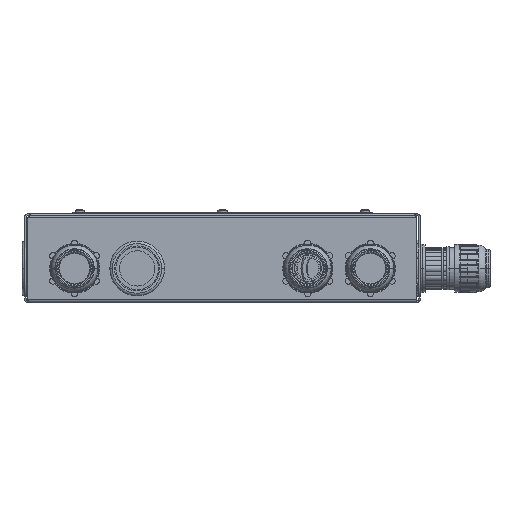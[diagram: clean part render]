
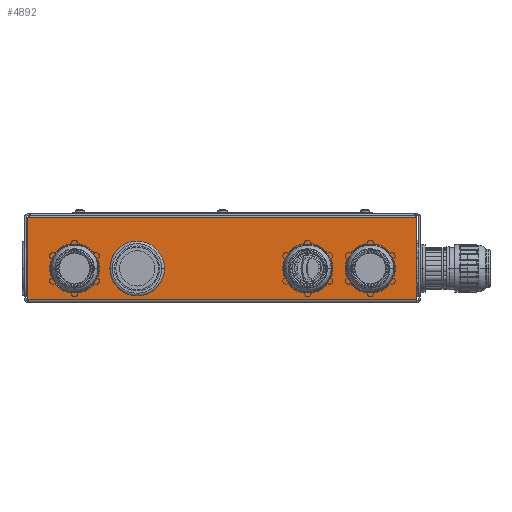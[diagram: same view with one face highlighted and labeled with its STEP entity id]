
A CAD part, front view. The second image highlights one B-rep face of the part: STEP entity #4892.
In plain terms, the highlighted planar face has unit normal (0, -1, 0) as drawn and (1, 0, 0) by its records, which use the part's own axes.
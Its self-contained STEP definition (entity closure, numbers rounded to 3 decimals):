
#110=DIRECTION('',(0.,-1.,0.));
#111=VECTOR('',#110,342.);
#112=CARTESIAN_POINT('',(200.5,171.,-1.5));
#113=LINE('',#112,#111);
#1016=DIRECTION('',(0.,0.,-1.));
#1017=VECTOR('',#1016,72.);
#1018=CARTESIAN_POINT('',(200.5,-171.,-1.5));
#1019=LINE('',#1018,#1017);
#1020=DIRECTION('',(0.,0.,1.));
#1021=VECTOR('',#1020,72.);
#1022=CARTESIAN_POINT('',(200.5,171.,-73.5));
#1023=LINE('',#1022,#1021);
#1024=CARTESIAN_POINT('',(200.5,-75.,-28.5));
#1025=DIRECTION('',(1.,0.,0.));
#1026=DIRECTION('',(0.,1.,0.));
#1027=AXIS2_PLACEMENT_3D('',#1024,#1025,#1026);
#1029=CARTESIAN_POINT('',(200.5,-75.,-28.5));
#1030=DIRECTION('',(1.,0.,0.));
#1031=DIRECTION('',(0.,-1.,0.));
#1032=AXIS2_PLACEMENT_3D('',#1029,#1030,#1031);
#1034=CARTESIAN_POINT('',(200.5,-130.,-28.5));
#1035=DIRECTION('',(1.,0.,0.));
#1036=DIRECTION('',(0.,1.,0.));
#1037=AXIS2_PLACEMENT_3D('',#1034,#1035,#1036);
#1039=CARTESIAN_POINT('',(200.5,-130.,-28.5));
#1040=DIRECTION('',(1.,0.,0.));
#1041=DIRECTION('',(0.,-1.,0.));
#1042=AXIS2_PLACEMENT_3D('',#1039,#1040,#1041);
#1044=CARTESIAN_POINT('',(200.5,75.,-28.5));
#1045=DIRECTION('',(1.,0.,0.));
#1046=DIRECTION('',(0.,1.,0.));
#1047=AXIS2_PLACEMENT_3D('',#1044,#1045,#1046);
#1049=CARTESIAN_POINT('',(200.5,75.,-28.5));
#1050=DIRECTION('',(1.,0.,0.));
#1051=DIRECTION('',(0.,-1.,0.));
#1052=AXIS2_PLACEMENT_3D('',#1049,#1050,#1051);
#1054=CARTESIAN_POINT('',(200.5,130.,-28.5));
#1055=DIRECTION('',(1.,0.,0.));
#1056=DIRECTION('',(0.,1.,0.));
#1057=AXIS2_PLACEMENT_3D('',#1054,#1055,#1056);
#1059=CARTESIAN_POINT('',(200.5,130.,-28.5));
#1060=DIRECTION('',(1.,0.,0.));
#1061=DIRECTION('',(0.,-1.,0.));
#1062=AXIS2_PLACEMENT_3D('',#1059,#1060,#1061);
#1082=CARTESIAN_POINT('',(200.5,-171.,-73.5));
#1084=DIRECTION('',(0.,-1.,0.));
#1085=VECTOR('',#1084,342.);
#1086=CARTESIAN_POINT('',(200.5,171.,-73.5));
#1087=LINE('',#1086,#1085);
#1094=CARTESIAN_POINT('',(200.5,171.,-73.5));
#2680=CARTESIAN_POINT('',(200.5,171.,-1.5));
#2681=CARTESIAN_POINT('',(200.5,-171.,-1.5));
#2682=VERTEX_POINT('',#2680);
#2683=VERTEX_POINT('',#2681);
#3008=VERTEX_POINT('',#1082);
#3009=VERTEX_POINT('',#1094);
#3116=CARTESIAN_POINT('',(200.5,148.75,-28.5));
#3117=CARTESIAN_POINT('',(200.5,111.25,-28.5));
#3118=VERTEX_POINT('',#3116);
#3119=VERTEX_POINT('',#3117);
#3120=CARTESIAN_POINT('',(200.5,93.75,-28.5));
#3121=CARTESIAN_POINT('',(200.5,56.25,-28.5));
#3122=VERTEX_POINT('',#3120);
#3123=VERTEX_POINT('',#3121);
#3124=CARTESIAN_POINT('',(200.5,-111.25,-28.5));
#3125=CARTESIAN_POINT('',(200.5,-148.75,-28.5));
#3126=VERTEX_POINT('',#3124);
#3127=VERTEX_POINT('',#3125);
#3128=CARTESIAN_POINT('',(200.5,-56.25,-28.5));
#3129=CARTESIAN_POINT('',(200.5,-93.75,-28.5));
#3130=VERTEX_POINT('',#3128);
#3131=VERTEX_POINT('',#3129);
#4855=CARTESIAN_POINT('',(200.5,-171.,1.5));
#4856=DIRECTION('',(1.,0.,0.));
#4857=DIRECTION('',(0.,-1.,0.));
#4858=AXIS2_PLACEMENT_3D('',#4855,#4856,#4857);
#4859=PLANE('',#4858);
#4861=ORIENTED_EDGE('',*,*,#4860,.F.);
#4862=ORIENTED_EDGE('',*,*,#3356,.F.);
#4863=ORIENTED_EDGE('',*,*,#4845,.F.);
#4865=ORIENTED_EDGE('',*,*,#4864,.T.);
#4866=EDGE_LOOP('',(#4861,#4862,#4863,#4865));
#4867=FACE_OUTER_BOUND('',#4866,.F.);
#4869=ORIENTED_EDGE('',*,*,#4868,.T.);
#4871=ORIENTED_EDGE('',*,*,#4870,.T.);
#4872=EDGE_LOOP('',(#4869,#4871));
#4873=FACE_BOUND('',#4872,.F.);
#4875=ORIENTED_EDGE('',*,*,#4874,.T.);
#4877=ORIENTED_EDGE('',*,*,#4876,.T.);
#4878=EDGE_LOOP('',(#4875,#4877));
#4879=FACE_BOUND('',#4878,.F.);
#4881=ORIENTED_EDGE('',*,*,#4880,.T.);
#4883=ORIENTED_EDGE('',*,*,#4882,.T.);
#4884=EDGE_LOOP('',(#4881,#4883));
#4885=FACE_BOUND('',#4884,.F.);
#4887=ORIENTED_EDGE('',*,*,#4886,.T.);
#4889=ORIENTED_EDGE('',*,*,#4888,.T.);
#4890=EDGE_LOOP('',(#4887,#4889));
#4891=FACE_BOUND('',#4890,.F.);
#4892=ADVANCED_FACE('',(#4867,#4873,#4879,#4885,#4891),#4859,.T.);
#1028=CIRCLE('',#1027,18.75);
#1033=CIRCLE('',#1032,18.75);
#1038=CIRCLE('',#1037,18.75);
#1043=CIRCLE('',#1042,18.75);
#1048=CIRCLE('',#1047,18.75);
#1053=CIRCLE('',#1052,18.75);
#1058=CIRCLE('',#1057,18.75);
#1063=CIRCLE('',#1062,18.75);
#3356=EDGE_CURVE('',#2682,#2683,#113,.T.);
#4845=EDGE_CURVE('',#3009,#2682,#1023,.T.);
#4860=EDGE_CURVE('',#2683,#3008,#1019,.T.);
#4864=EDGE_CURVE('',#3009,#3008,#1087,.T.);
#4868=EDGE_CURVE('',#3130,#3131,#1028,.T.);
#4870=EDGE_CURVE('',#3131,#3130,#1033,.T.);
#4874=EDGE_CURVE('',#3126,#3127,#1038,.T.);
#4876=EDGE_CURVE('',#3127,#3126,#1043,.T.);
#4880=EDGE_CURVE('',#3122,#3123,#1048,.T.);
#4882=EDGE_CURVE('',#3123,#3122,#1053,.T.);
#4886=EDGE_CURVE('',#3118,#3119,#1058,.T.);
#4888=EDGE_CURVE('',#3119,#3118,#1063,.T.);
